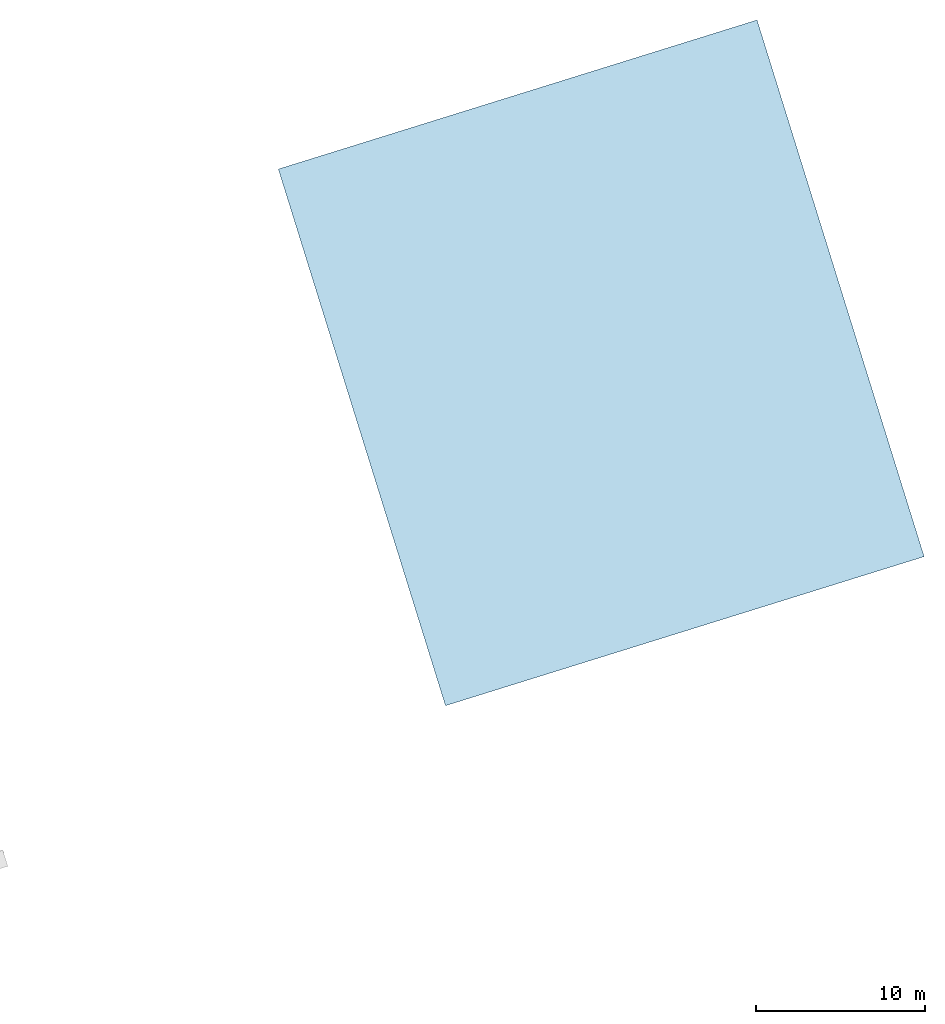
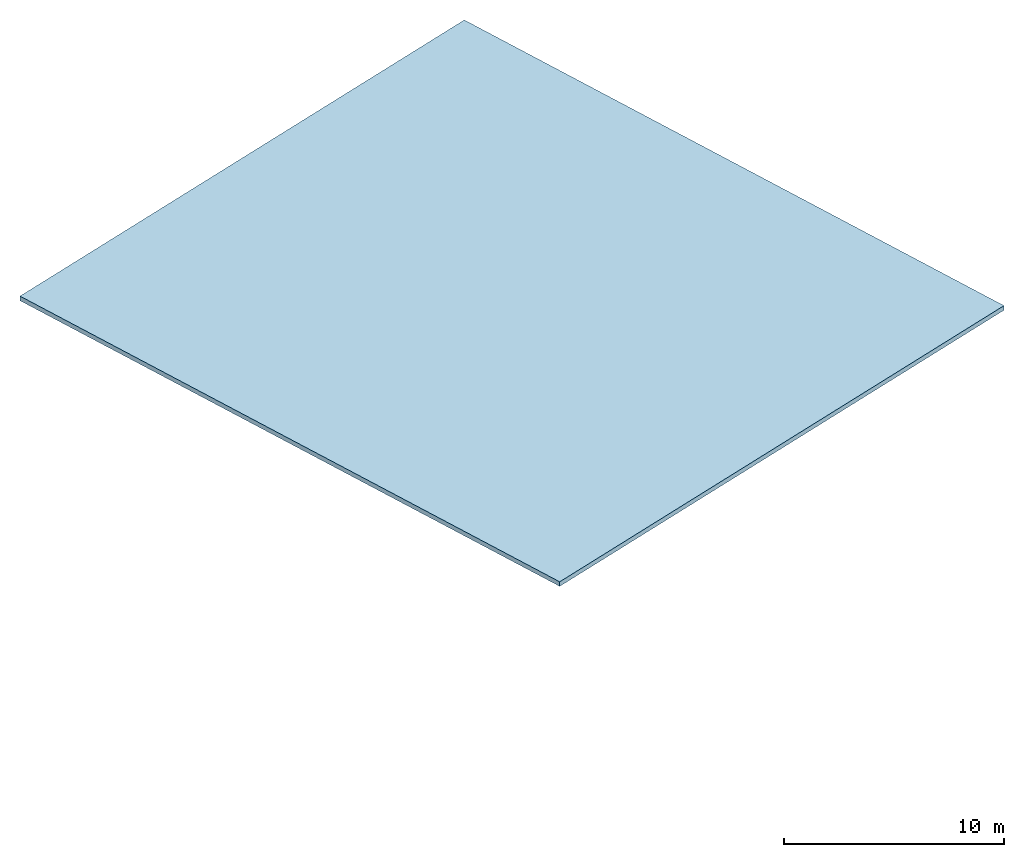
# One storey, part 1 of 2: 1 slab.
"""IFC4 building model written with IfcOpenShell, lengths in metres."""

import ifcopenshell
import ifcopenshell.guid

model = None  # the IFC model being written
_history = None  # IfcOwnerHistory: only IFC2X3 demands one
_inside = {}  # id of a spatial element -> (the spatial element, [elements in it])
_under = {}  # id of a project, library or spatial element -> (it, [spatial elements below it])
_declared = {}  # id of a project -> (the project, [libraries it declares])
_typed = {}  # id of a type object -> (the type object, [elements of that type])
_made_of = {}  # id of a material, layer set ... -> (it, [elements and type objects made of it])


def new_model(schema):
    """Start an empty IFC model of exactly this schema.

    Asked for "IFC4X3", IfcOpenShell would pick the latest addendum, in which some entities
    have other attributes; the version numbers below select the first issue.
    IFC2X3 requires an IfcOwnerHistory on every rooted entity: one is made here for all.
    """
    global model, _history
    if schema == "IFC4X3":
        model = ifcopenshell.file(schema_version=(4, 3, 0, 0))
    else:
        model = ifcopenshell.file(schema=schema)
    _inside.clear()
    _under.clear()
    _declared.clear()
    _typed.clear()
    _made_of.clear()
    _history = None
    if model.schema == "IFC2X3":
        org = make("IfcOrganization", Name="unknown")
        user = make(
            "IfcPersonAndOrganization",
            ThePerson=make("IfcPerson", FamilyName="unknown"),
            TheOrganization=org,
        )
        app = make(
            "IfcApplication",
            ApplicationDeveloper=org,
            Version="unknown",
            ApplicationFullName="unknown",
            ApplicationIdentifier="unknown",
        )
        _history = make(
            "IfcOwnerHistory",
            OwningUser=user,
            OwningApplication=app,
            ChangeAction="ADDED",
            CreationDate=0,
        )
    return model


def make(cls, **values):
    """One entity of the class cls with the attributes given. An attribute that is None is left unset."""
    return model.create_entity(
        cls, **{name: value for name, value in values.items() if value is not None}
    )


def entity(cls, *values):
    """Any entity or typed value of the class cls, its attributes in the order of the schema. None: left unset."""
    e = model.create_entity(cls)
    for i, value in enumerate(values):
        if value is not None:
            e[i] = value
    return e


def rooted(cls, **values):
    """An entity with a GlobalId (a new one), such as an element, a storey or a relation."""
    return make(cls, GlobalId=ifcopenshell.guid.new(), OwnerHistory=_history, **values)


def si_unit(unit_type, name, prefix=None):
    """IfcSIUnit, for example si_unit("LENGTHUNIT", "METRE", prefix="MILLI")."""
    return make("IfcSIUnit", UnitType=unit_type, Prefix=prefix, Name=name)


def converted_unit(unit_type, name, factor, base, dimensions=None, offset=None):
    """IfcConversionBasedUnit, such as the inch: factor (a typed value) times the base unit."""
    return make(
        "IfcConversionBasedUnit"
        if offset is None
        else "IfcConversionBasedUnitWithOffset",
        ConversionOffset=offset,
        Dimensions=None
        if dimensions is None
        else entity("IfcDimensionalExponents", *dimensions),
        UnitType=unit_type,
        Name=name,
        ConversionFactor=make(
            "IfcMeasureWithUnit", ValueComponent=factor, UnitComponent=base
        ),
    )


def assignment(units):
    """IfcUnitAssignment: the units of a project."""
    return None if units is None else make("IfcUnitAssignment", Units=units)


def point(xyz):
    """IfcCartesianPoint."""
    return None if xyz is None else make("IfcCartesianPoint", Coordinates=xyz)


def direction(xyz):
    """IfcDirection."""
    return None if xyz is None else make("IfcDirection", DirectionRatios=xyz)


def frame(location, z_axis=None, x_axis=None):
    """IfcAxis2Placement3D, a coordinate frame: its origin and axes. An axis left out is left unset."""
    return make(
        "IfcAxis2Placement3D",
        Location=point(location),
        Axis=direction(z_axis),
        RefDirection=direction(x_axis),
    )


def origin():
    """The frame at (0, 0, 0) with its axes left unset."""
    return frame((0.0, 0.0, 0.0))


def place(relative_to, where):
    """IfcLocalPlacement: puts the frame where relative to a parent placement (None: the world)."""
    return make(
        "IfcLocalPlacement", PlacementRelTo=relative_to, RelativePlacement=where
    )


def context(
    kind, dimensions, precision=None, world=None, true_north=None, identifier=None
):
    """IfcGeometricRepresentationContext, for example the 3D "Model" context."""
    return make(
        "IfcGeometricRepresentationContext",
        ContextIdentifier=identifier,
        ContextType=kind,
        CoordinateSpaceDimension=dimensions,
        Precision=precision,
        WorldCoordinateSystem=world,
        TrueNorth=true_north,
    )


def subcontext(parent, identifier, kind, view, scale=None):
    """IfcGeometricRepresentationSubContext, for example "Body" below "Model"."""
    return make(
        "IfcGeometricRepresentationSubContext",
        ContextIdentifier=identifier,
        ContextType=kind,
        ParentContext=parent,
        TargetScale=scale,
        TargetView=view,
    )


def project(units=None, contexts=None):
    """IfcProject with its units and contexts."""
    return rooted(
        "IfcProject",
        Name="project",
        RepresentationContexts=contexts,
        UnitsInContext=assignment(units),
    )


def spatial(cls, under=None, at=None, **own):
    """A site, building, storey or space (cls), placed at a placement, below another one or the project."""
    s = rooted(cls, ObjectPlacement=at, **own)
    if under is not None:
        _under.setdefault(under.id(), (under, []))[1].append(s)
    return s


def point_list(points):
    """IfcCartesianPointList2D or 3D."""
    cls = (
        "IfcCartesianPointList2D" if len(points[0]) == 2 else "IfcCartesianPointList3D"
    )
    return make(cls, CoordList=points)


def indexed_curve(points, segments=None, self_intersect=None):
    """IfcIndexedPolyCurve: lines and arcs through numbered points (the first is 1)."""
    return make(
        "IfcIndexedPolyCurve",
        Points=point_list(points),
        Segments=segments,
        SelfIntersect=self_intersect,
    )


def outline(outer, holes=None, kind="AREA"):
    """IfcArbitraryClosedProfileDef: a profile drawn as a closed curve; with holes, ...WithVoids."""
    if holes is None:
        return make("IfcArbitraryClosedProfileDef", ProfileType=kind, OuterCurve=outer)
    return make(
        "IfcArbitraryProfileDefWithVoids",
        ProfileType=kind,
        OuterCurve=outer,
        InnerCurves=holes,
    )


def extrude(swept, where, along, depth):
    """IfcExtrudedAreaSolid: the profile swept, set in the frame where, extruded along a direction by depth."""
    return make(
        "IfcExtrudedAreaSolid",
        SweptArea=swept,
        Position=where,
        ExtrudedDirection=direction(along),
        Depth=depth,
    )


def shape(context_of_items, identifier, shape_type, items):
    """IfcShapeRepresentation: the items that make up one representation, for example the "Body"."""
    return make(
        "IfcShapeRepresentation",
        ContextOfItems=context_of_items,
        RepresentationIdentifier=identifier,
        RepresentationType=shape_type,
        Items=items,
    )


def material(Name=None, Category=None):
    """IfcMaterial."""
    return make("IfcMaterial", Name=Name, Category=Category)


def made_of(thing, what):
    """Note that an element or type object is made of a material, layer set ...; save() writes the relation."""
    if what is not None:
        _made_of.setdefault(what.id(), (what, []))[1].append(thing)
    return thing


def type_object(cls, material=None, **own):
    """A type object (cls), such as IfcWallType, which elements share."""
    return made_of(rooted(cls, **own), material)


def element(
    cls,
    number,
    at=None,
    inside=None,
    cuts=None,
    type_object=None,
    material=None,
    context=None,
    identifier="Body",
    shape_type=None,
    held_by="IfcProductDefinitionShape",
    body=None,
    shapes=None,
    **own,
):
    """One element of the class cls, such as IfcWall. Its Tag is "e" and its number.

    at: its placement. inside: the storey or other place that contains it. cuts: it is an
    opening in that element (IfcRelVoidsElement). A single representation is given by context,
    identifier, shape_type and body (its items); several are given by shapes. held_by: the class
    of the entity that holds the representations. save() writes the other relations.
    """
    e = rooted(cls, Tag="e%d" % number, ObjectPlacement=at, **own)
    if body is not None:
        shapes = [shape(context, identifier, shape_type, body)]
    if shapes is not None:
        e.Representation = make(held_by, Representations=shapes)
    if inside is not None:
        _inside.setdefault(inside.id(), (inside, []))[1].append(e)
    if cuts is not None:
        rooted(
            "IfcRelVoidsElement", RelatingBuildingElement=cuts, RelatedOpeningElement=e
        )
    if type_object is not None:
        _typed.setdefault(type_object.id(), (type_object, []))[1].append(e)
    return made_of(e, material)


def aggregate(whole, parts):
    """IfcRelAggregates: a whole, such as a stair, and the parts it consists of."""
    return rooted("IfcRelAggregates", RelatingObject=whole, RelatedObjects=parts)


def save(model, path):
    """Write the relations noted so far, then the file.

    IfcRelAggregates (storeys below a building ...), IfcRelContainedInSpatialStructure (elements
    in a storey), IfcRelDefinesByType, IfcRelAssociatesMaterial and IfcRelDeclares: one each for
    every whole, place, type object, material and project.
    """
    for whole, parts in _under.values():
        aggregate(whole, parts)
    for where, things in _inside.values():
        rooted(
            "IfcRelContainedInSpatialStructure",
            RelatedElements=things,
            RelatingStructure=where,
        )
    for kind, things in _typed.values():
        rooted("IfcRelDefinesByType", RelatedObjects=things, RelatingType=kind)
    for what, things in _made_of.values():
        rooted("IfcRelAssociatesMaterial", RelatedObjects=things, RelatingMaterial=what)
    for by, libraries in _declared.values():
        rooted("IfcRelDeclares", RelatingContext=by, RelatedDefinitions=libraries)
    model.write(path)


model = new_model("IFC4")

# Units and contexts
model_context = context("Model", 3, precision=1e-05, world=origin(), true_north=direction((6.12323399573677e-17, 1.0)))
body_context = subcontext(model_context, "Body", "Model", "MODEL_VIEW")
ifc_project = project(units=[si_unit("LENGTHUNIT", "METRE"), si_unit("AREAUNIT", "SQUARE_METRE"), si_unit("VOLUMEUNIT", "CUBIC_METRE"), converted_unit("PLANEANGLEUNIT", "DEGREE", entity("IfcPlaneAngleMeasure", 0.0174532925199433), si_unit("PLANEANGLEUNIT", "RADIAN"), dimensions=[0, 0, 0, 0, 0, 0, 0])], contexts=[model_context])

# Site, building, storey
site_placement = place(None, frame((13.1347999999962, 11.9886000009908, 0.0), z_axis=(0.0, 0.0, 1.0), x_axis=(0.954770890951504, 0.297342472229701, 0.0)))
site = spatial("IfcSite", under=ifc_project, at=site_placement, Name="Schiehaven", CompositionType="ELEMENT")
building_placement = place(site_placement, origin())
building = spatial("IfcBuilding", under=site, at=building_placement, Name="VORM huis", CompositionType="ELEMENT")
storey_placement = place(building_placement, origin())
storey = spatial("IfcBuildingStorey", under=building, at=storey_placement, Name="00 begane grond", CompositionType="ELEMENT", Elevation=0.0)

# Slab
ifc_material = material(Name="beton_gewapend_ihw", Category="Miscellaneous")
slab_type = type_object("IfcSlabType", Name="Floor:28_FL_skelet_dakterrasvloer 250mm", PredefinedType="ROOF", material=ifc_material)
slab_placement = place(storey_placement, origin())
element("IfcSlab", 1, at=slab_placement, inside=storey, type_object=slab_type, material=ifc_material, Name="Begaanbare dakvloer", ObjectType="Vloer", PredefinedType="ROOF", context=body_context, shape_type="SweptSolid", body=[
    extrude(outline(indexed_curve([(-16.675, -14.8750000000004), (16.675, -14.8750000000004), (16.675, 14.8750000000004), (-16.675, 14.8750000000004), (-16.675, -14.8750000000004)], self_intersect=False)), frame((42.5000000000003, 17.05, 0.0), z_axis=(0.0, 0.0, -1.0), x_axis=(0.0, 1.0, 0.0)), (0.0, 0.0, 1.0), 0.25),
])

save(model, "model.ifc")
